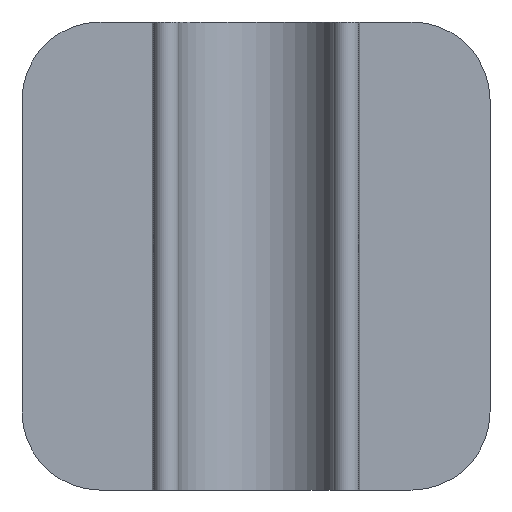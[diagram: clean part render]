
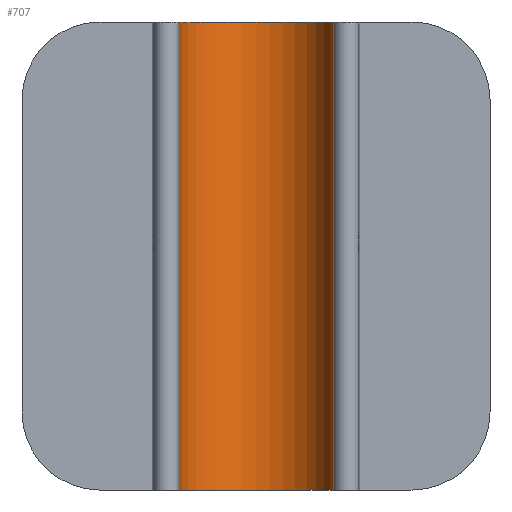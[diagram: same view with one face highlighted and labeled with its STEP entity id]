
A CAD part, front view. The second image highlights one B-rep face of the part: STEP entity #707.
In plain terms, the highlighted cylindrical face has radius 6.413 mm (diameter 12.827 mm), a partial arc.
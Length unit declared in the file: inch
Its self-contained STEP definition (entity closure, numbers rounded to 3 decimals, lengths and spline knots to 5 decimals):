
#93 = ORIENTED_EDGE ( 'NONE', *, *, #745, .F. ) ;
#100 = LINE ( 'NONE', #596, #103 ) ;
#103 = VECTOR ( 'NONE', #595, 39.37008 ) ;
#122 = CIRCLE ( 'NONE', #733, 0.2525 ) ;
#123 = CIRCLE ( 'NONE', #803, 0.2525 ) ;
#195 = EDGE_LOOP ( 'NONE', ( #261, #93, #272, #200 ) ) ;
#200 = ORIENTED_EDGE ( 'NONE', *, *, #770, .T. ) ;
#236 = FACE_OUTER_BOUND ( 'NONE', #195, .T. ) ;
#261 = ORIENTED_EDGE ( 'NONE', *, *, #794, .F. ) ;
#272 = ORIENTED_EDGE ( 'NONE', *, *, #773, .T. ) ;
#280 = LINE ( 'NONE', #335, #329 ) ;
#297 = CYLINDRICAL_SURFACE ( 'NONE', #735, 0.2525 ) ;
#329 = VECTOR ( 'NONE', #368, 39.37008 ) ;
#335 = CARTESIAN_POINT ( 'NONE',  ( 0.2525, 0., 0.75 ) ) ;
#368 = DIRECTION ( 'NONE',  ( 0., 0., -1. ) ) ;
#389 = CARTESIAN_POINT ( 'NONE',  ( -0.2525, 0., -0.75 ) ) ;
#417 = VERTEX_POINT ( 'NONE', #485 ) ;
#450 = CARTESIAN_POINT ( 'NONE',  ( 0.2525, 0., -0.75 ) ) ;
#474 = CARTESIAN_POINT ( 'NONE',  ( -0.2525, 0., 0.75 ) ) ;
#485 = CARTESIAN_POINT ( 'NONE',  ( 0.2525, 0., 0.75 ) ) ;
#516 = VERTEX_POINT ( 'NONE', #474 ) ;
#521 = VERTEX_POINT ( 'NONE', #450 ) ;
#528 = VERTEX_POINT ( 'NONE', #389 ) ;
#561 = DIRECTION ( 'NONE',  ( 0., 0., -1. ) ) ;
#564 = CARTESIAN_POINT ( 'NONE',  ( 0., 0., 0.75 ) ) ;
#581 = DIRECTION ( 'NONE',  ( -1., 0., 0. ) ) ;
#595 = DIRECTION ( 'NONE',  ( 0., 0., -1. ) ) ;
#596 = CARTESIAN_POINT ( 'NONE',  ( -0.2525, 0., 0.75 ) ) ;
#601 = DIRECTION ( 'NONE',  ( 1., 0., 0. ) ) ;
#603 = DIRECTION ( 'NONE',  ( 0., 0., -1. ) ) ;
#614 = CARTESIAN_POINT ( 'NONE',  ( 0., 0., -0.75 ) ) ;
#620 = CARTESIAN_POINT ( 'NONE',  ( 0., 0., 0.75 ) ) ;
#663 = DIRECTION ( 'NONE',  ( 0., 0., -1. ) ) ;
#676 = DIRECTION ( 'NONE',  ( 1., 0., 0. ) ) ;
#707 = ADVANCED_FACE ( 'NONE', ( #236 ), #297, .F. ) ;
#733 = AXIS2_PLACEMENT_3D ( 'NONE', #564, #561, #676 ) ;
#735 = AXIS2_PLACEMENT_3D ( 'NONE', #620, #663, #581 ) ;
#745 = EDGE_CURVE ( 'NONE', #516, #417, #122, .T. ) ;
#770 = EDGE_CURVE ( 'NONE', #528, #521, #123, .T. ) ;
#773 = EDGE_CURVE ( 'NONE', #516, #528, #100, .T. ) ;
#794 = EDGE_CURVE ( 'NONE', #417, #521, #280, .T. ) ;
#803 = AXIS2_PLACEMENT_3D ( 'NONE', #614, #603, #601 ) ;
